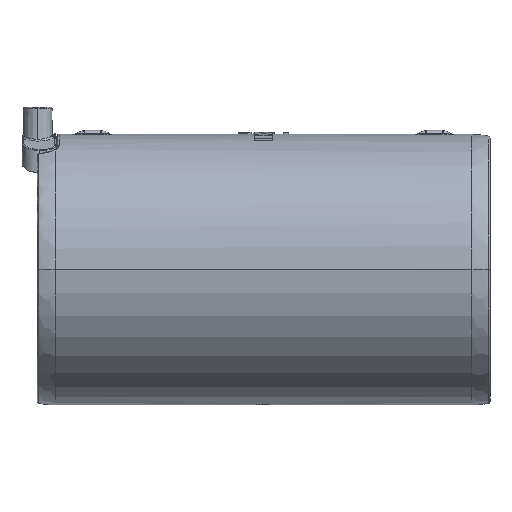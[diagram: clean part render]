
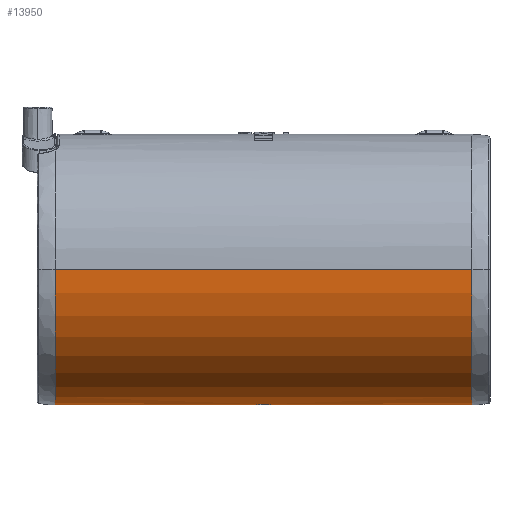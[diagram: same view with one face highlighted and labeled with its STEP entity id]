
A CAD part, top view. The second image highlights one B-rep face of the part: STEP entity #13950.
In plain terms, the highlighted cylindrical face has radius 66.5 mm (diameter 133 mm), a partial arc.
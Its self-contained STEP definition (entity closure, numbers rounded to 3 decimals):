
#17 = CARTESIAN_POINT ( 'NONE',  ( 21.601, -66.349, 4.488 ) ) ;
#771 = FACE_OUTER_BOUND ( 'NONE', #44194, .T. ) ;
#1343 = VECTOR ( 'NONE', #20221, 1000. ) ;
#2661 = CARTESIAN_POINT ( 'NONE',  ( 15.371, -66.266, 5.583 ) ) ;
#3317 = ORIENTED_EDGE ( 'NONE', *, *, #13455, .T. ) ;
#5338 = VERTEX_POINT ( 'NONE', #38056 ) ;
#5851 = CIRCLE ( 'NONE', #13470, 66.5 ) ;
#5992 = CARTESIAN_POINT ( 'NONE',  ( 22.086, -66.38, 4.004 ) ) ;
#6413 = DIRECTION ( 'NONE',  ( 0., 0., 1. ) ) ;
#6436 = CARTESIAN_POINT ( 'NONE',  ( 12.848, -66.4, 3.646 ) ) ;
#6724 = LINE ( 'NONE', #73799, #52772 ) ;
#6777 = CARTESIAN_POINT ( 'NONE',  ( 12.85, -66.4, 3.646 ) ) ;
#8623 = CARTESIAN_POINT ( 'NONE',  ( 23.086, -66.454, 2.547 ) ) ;
#9017 = CARTESIAN_POINT ( 'NONE',  ( 13.452, -66.359, 4.344 ) ) ;
#9773 = EDGE_CURVE ( 'NONE', #39588, #38126, #48969, .T. ) ;
#11887 = EDGE_CURVE ( 'NONE', #73836, #38126, #45511, .T. ) ;
#12378 = CARTESIAN_POINT ( 'NONE',  ( 120.026, 0., 0. ) ) ;
#12949 = AXIS2_PLACEMENT_3D ( 'NONE', #41212, #76173, #70198 ) ;
#13455 = EDGE_CURVE ( 'NONE', #21711, #35187, #5851, .T. ) ;
#13470 = AXIS2_PLACEMENT_3D ( 'NONE', #12378, #66349, #6413 ) ;
#13950 = ADVANCED_FACE ( 'NONE', ( #771 ), #26146, .T. ) ;
#14040 = EDGE_CURVE ( 'NONE', #5338, #35187, #6724, .T. ) ;
#15843 = LINE ( 'NONE', #39244, #1343 ) ;
#16031 = CARTESIAN_POINT ( 'NONE',  ( 12.85, -66.4, 3.646 ) ) ;
#16326 = DIRECTION ( 'NONE',  ( 1., 0., 0. ) ) ;
#19069 = CARTESIAN_POINT ( 'NONE',  ( 21.072, -66.318, 4.923 ) ) ;
#19355 = VECTOR ( 'NONE', #74763, 1000. ) ;
#19483 = CARTESIAN_POINT ( 'NONE',  ( 120.026, 0., 66.5 ) ) ;
#20221 = DIRECTION ( 'NONE',  ( 1., 0., 0. ) ) ;
#20921 = CARTESIAN_POINT ( 'NONE',  ( 23.508, -66.49, 1.3 ) ) ;
#21239 = ORIENTED_EDGE ( 'NONE', *, *, #11887, .T. ) ;
#21711 = VERTEX_POINT ( 'NONE', #36561 ) ;
#24613 = CARTESIAN_POINT ( 'NONE',  ( 19.429, -66.252, 5.736 ) ) ;
#24911 = ORIENTED_EDGE ( 'NONE', *, *, #30849, .T. ) ;
#26146 = CYLINDRICAL_SURFACE ( 'NONE', #31201, 66.5 ) ;
#27235 = CARTESIAN_POINT ( 'NONE',  ( -89.391, -66.4, 3.646 ) ) ;
#29394 = CARTESIAN_POINT ( 'NONE',  ( 22.377, -66.4, 3.646 ) ) ;
#30055 = EDGE_CURVE ( 'NONE', #73836, #65266, #54393, .T. ) ;
#30167 = CARTESIAN_POINT ( 'NONE',  ( 21.768, -66.359, 4.333 ) ) ;
#30618 = CARTESIAN_POINT ( 'NONE',  ( 11.614, -66.5, 0. ) ) ;
#30849 = EDGE_CURVE ( 'NONE', #55193, #68538, #38253, .T. ) ;
#30900 = DIRECTION ( 'NONE',  ( 1., 0., 0. ) ) ;
#31201 = AXIS2_PLACEMENT_3D ( 'NONE', #43638, #32080, #62271 ) ;
#31348 = CARTESIAN_POINT ( 'NONE',  ( 14.159, -66.318, 4.925 ) ) ;
#31470 = CARTESIAN_POINT ( 'NONE',  ( 22.379, -66.4, 3.646 ) ) ;
#31547 = ORIENTED_EDGE ( 'NONE', *, *, #60181, .F. ) ;
#32080 = DIRECTION ( 'NONE',  ( -1., 0., 0. ) ) ;
#33585 = CARTESIAN_POINT ( 'NONE',  ( 23.614, -66.5, 0.659 ) ) ;
#34990 = EDGE_CURVE ( 'NONE', #43291, #65266, #69920, .T. ) ;
#35187 = VERTEX_POINT ( 'NONE', #19483 ) ;
#35879 = ORIENTED_EDGE ( 'NONE', *, *, #39547, .F. ) ;
#36137 = CARTESIAN_POINT ( 'NONE',  ( 22.237, -66.39, 3.829 ) ) ;
#36561 = CARTESIAN_POINT ( 'NONE',  ( 120.026, -66.5, 0. ) ) ;
#37719 = CARTESIAN_POINT ( 'NONE',  ( 20.679, -66.299, 5.176 ) ) ;
#38056 = CARTESIAN_POINT ( 'NONE',  ( -84.798, 0., 66.5 ) ) ;
#38126 = VERTEX_POINT ( 'NONE', #31470 ) ;
#38253 = LINE ( 'NONE', #62476, #19355 ) ;
#38785 = CARTESIAN_POINT ( 'NONE',  ( 22.779, -66.429, 3.122 ) ) ;
#39144 = DIRECTION ( 'NONE',  ( 1., 0., 0. ) ) ;
#39244 = CARTESIAN_POINT ( 'NONE',  ( -89.391, -66.5, 0. ) ) ;
#39547 = EDGE_CURVE ( 'NONE', #55193, #5338, #39558, .T. ) ;
#39558 = CIRCLE ( 'NONE', #12949, 66.5 ) ;
#39588 = VERTEX_POINT ( 'NONE', #46410 ) ;
#39845 = ORIENTED_EDGE ( 'NONE', *, *, #9773, .F. ) ;
#41150 = CARTESIAN_POINT ( 'NONE',  ( 12.848, -66.4, 3.646 ) ) ;
#41190 = VECTOR ( 'NONE', #39144, 1000. ) ;
#41212 = CARTESIAN_POINT ( 'NONE',  ( -84.798, 0., 0. ) ) ;
#43291 = VERTEX_POINT ( 'NONE', #41150 ) ;
#43638 = CARTESIAN_POINT ( 'NONE',  ( -89.391, 0., 0. ) ) ;
#44140 = CARTESIAN_POINT ( 'NONE',  ( 11.614, -66.5, 0.659 ) ) ;
#44194 = EDGE_LOOP ( 'NONE', ( #47428, #21239, #39845, #51098, #3317, #46606, #35879, #24911, #31547, #53673 ) ) ;
#45210 = CARTESIAN_POINT ( 'NONE',  ( 11.614, -66.5, 0. ) ) ;
#45511 = LINE ( 'NONE', #27235, #41190 ) ;
#46410 = CARTESIAN_POINT ( 'NONE',  ( 23.614, -66.5, 0. ) ) ;
#46606 = ORIENTED_EDGE ( 'NONE', *, *, #14040, .F. ) ;
#47428 = ORIENTED_EDGE ( 'NONE', *, *, #30055, .F. ) ;
#48969 = B_SPLINE_CURVE_WITH_KNOTS ( 'NONE', 3,
 ( #75298, #33585, #20921, #8623, #38785, #74523 ),
 .UNSPECIFIED., .F., .F.,
 ( 4, 2, 4 ),
 ( 0., 0.002, 0.004 ),
 .UNSPECIFIED. ) ;
#49249 = CARTESIAN_POINT ( 'NONE',  ( 13.128, -66.38, 4.008 ) ) ;
#50975 = B_SPLINE_CURVE_WITH_KNOTS ( 'NONE', 3,
 ( #6436, #56439, #55652, #73506, #44140, #30618 ),
 .UNSPECIFIED., .F., .F.,
 ( 4, 2, 4 ),
 ( 0., 0.002, 0.004 ),
 .UNSPECIFIED. ) ;
#51098 = ORIENTED_EDGE ( 'NONE', *, *, #56329, .T. ) ;
#51099 = CARTESIAN_POINT ( 'NONE',  ( 18.528, -66.234, 5.946 ) ) ;
#51500 = CARTESIAN_POINT ( 'NONE',  ( 14.542, -66.299, 5.173 ) ) ;
#52772 = VECTOR ( 'NONE', #30900, 1000. ) ;
#53673 = ORIENTED_EDGE ( 'NONE', *, *, #34990, .T. ) ;
#54393 = B_SPLINE_CURVE_WITH_KNOTS ( 'NONE', 3,
 ( #29394, #36137, #5992, #30167, #17, #19069, #37719, #67883, #24613, #51099, #61137, #61933, #75300, #54800, #2661, #51500, #31348, #9017, #49249, #6777 ),
 .UNSPECIFIED., .F., .F.,
 ( 4, 2, 2, 2, 2, 2, 2, 2, 2, 4 ),
 ( 0.004, 0.005, 0.005, 0.007, 0.008, 0.009, 0.011, 0.012, 0.013, 0.015 ),
 .UNSPECIFIED. ) ;
#54800 = CARTESIAN_POINT ( 'NONE',  ( 15.803, -66.252, 5.737 ) ) ;
#55193 = VERTEX_POINT ( 'NONE', #72050 ) ;
#55652 = CARTESIAN_POINT ( 'NONE',  ( 12.143, -66.454, 2.549 ) ) ;
#56329 = EDGE_CURVE ( 'NONE', #39588, #21711, #15843, .T. ) ;
#56439 = CARTESIAN_POINT ( 'NONE',  ( 12.448, -66.429, 3.122 ) ) ;
#57460 = VECTOR ( 'NONE', #16326, 1000. ) ;
#60181 = EDGE_CURVE ( 'NONE', #43291, #68538, #50975, .T. ) ;
#61137 = CARTESIAN_POINT ( 'NONE',  ( 18.073, -66.229, 5.998 ) ) ;
#61933 = CARTESIAN_POINT ( 'NONE',  ( 17.158, -66.229, 5.999 ) ) ;
#62271 = DIRECTION ( 'NONE',  ( 0., 0., 1. ) ) ;
#62476 = CARTESIAN_POINT ( 'NONE',  ( -89.391, -66.5, 0. ) ) ;
#65266 = VERTEX_POINT ( 'NONE', #16031 ) ;
#66349 = DIRECTION ( 'NONE',  ( -1., 0., 0. ) ) ;
#67883 = CARTESIAN_POINT ( 'NONE',  ( 19.859, -66.266, 5.581 ) ) ;
#68099 = CARTESIAN_POINT ( 'NONE',  ( 22.377, -66.4, 3.646 ) ) ;
#68538 = VERTEX_POINT ( 'NONE', #45210 ) ;
#69920 = LINE ( 'NONE', #70697, #57460 ) ;
#70198 = DIRECTION ( 'NONE',  ( 0., 0., 1. ) ) ;
#70697 = CARTESIAN_POINT ( 'NONE',  ( -89.391, -66.4, 3.646 ) ) ;
#72050 = CARTESIAN_POINT ( 'NONE',  ( -84.798, -66.5, 0. ) ) ;
#73506 = CARTESIAN_POINT ( 'NONE',  ( 11.72, -66.49, 1.304 ) ) ;
#73799 = CARTESIAN_POINT ( 'NONE',  ( -89.391, 0., 66.5 ) ) ;
#73836 = VERTEX_POINT ( 'NONE', #68099 ) ;
#74523 = CARTESIAN_POINT ( 'NONE',  ( 22.379, -66.4, 3.646 ) ) ;
#74763 = DIRECTION ( 'NONE',  ( 1., 0., 0. ) ) ;
#75298 = CARTESIAN_POINT ( 'NONE',  ( 23.614, -66.5, 0. ) ) ;
#75300 = CARTESIAN_POINT ( 'NONE',  ( 16.694, -66.234, 5.945 ) ) ;
#76173 = DIRECTION ( 'NONE',  ( -1., 0., 0. ) ) ;
